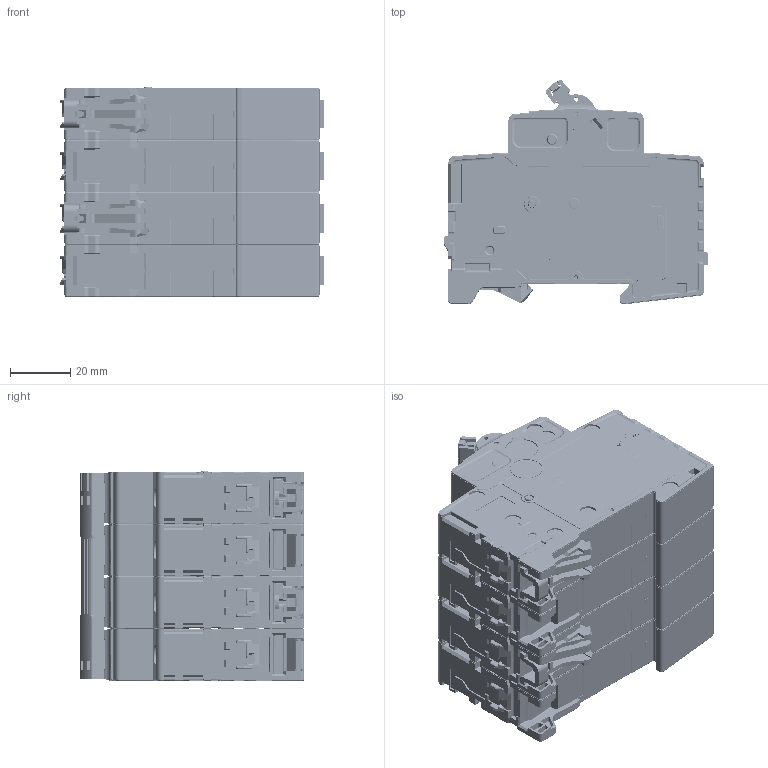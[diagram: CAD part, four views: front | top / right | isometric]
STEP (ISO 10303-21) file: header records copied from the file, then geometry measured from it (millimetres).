
FILE_DESCRIPTION((''),'2;1');
FILE_NAME('2CDS273605_SW0001','2013-09-06T',('DEX212668'),(''),'PRO/ENGINEER BY PARAMETRIC TECHNOLOGY CORPORATION, 2011310','PRO/ENGINEER BY PARAMETRIC TECHNOLOGY CORPORATION, 2011310','');
FILE_SCHEMA(('AUTOMOTIVE_DESIGN_CC2 { 1 2 10303 214 -1 1 5 2 }'));
Products named in the file (1): 2CDS273605_SW0001
Bounding box: 88 x 74.64 x 69.8 mm (x, y, z)
Volume: 304754 mm3; surface area: 64617.5 mm2
Topology: 1 solids, 1 shells, 7565 faces, 20170 edges, 12671 vertices
Faces by surface type: plane 3750, cylinder 2346, torus 481, bspline 477, cone 383, sphere 124, extrusion 4
Entity records: 321953 total; most frequent: CARTESIAN_POINT 84987, ORIENTED_EDGE 40308, DIRECTION 36959, EDGE_CURVE 20154, VECTOR 12713, LINE 12709, VERTEX_POINT 12671, AXIS2_PLACEMENT_3D 12123
